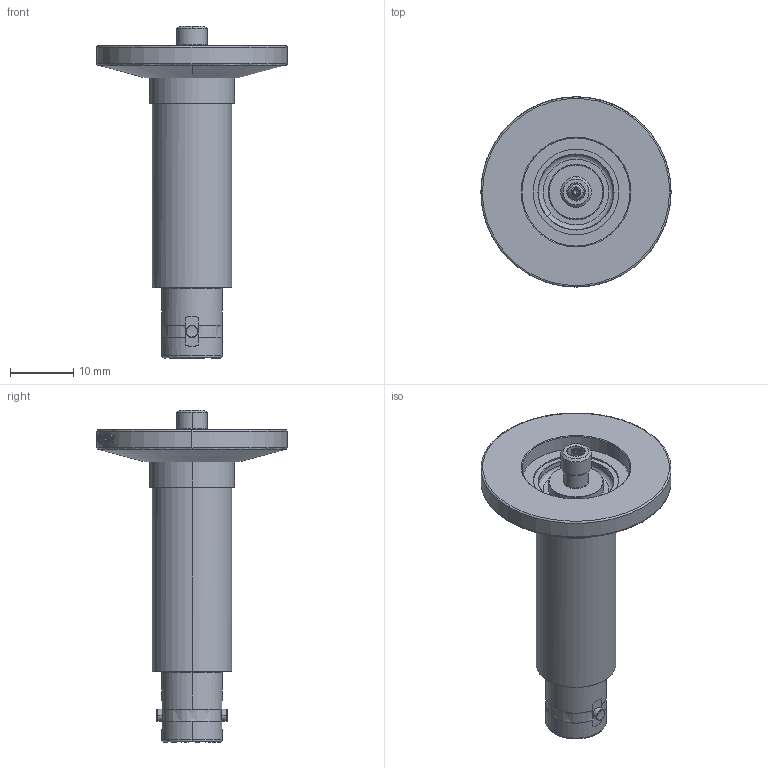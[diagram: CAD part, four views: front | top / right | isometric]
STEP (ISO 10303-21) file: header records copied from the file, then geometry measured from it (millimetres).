
FILE_DESCRIPTION (( 'STEP AP203' ), '1' );
FILE_NAME ('113135.stp', '2018-04-17T22:14:42', ( '' ), ( '' ), 'SwSTEP 2.0', 'SolidWorks 2012', '' );
FILE_SCHEMA (( 'CONFIG_CONTROL_DESIGN' ));
Length unit declared in the file: centimetre
Products named in the file (1): 113135
Bounding box: 29.97 x 29.97 x 52.32 mm (x, y, z)
Volume: 5408 mm3; surface area: 5850.7 mm2
Topology: 1 solids, 1 shells, 508 faces, 1322 edges, 859 vertices
Faces by surface type: bspline 182, plane 168, cylinder 102, cone 56
Entity records: 41837 total; most frequent: CARTESIAN_POINT 30621, ORIENTED_EDGE 2636, DIRECTION 1818, EDGE_CURVE 1318, VERTEX_POINT 859, AXIS2_PLACEMENT_3D 675, EDGE_LOOP 555, FACE_OUTER_BOUND 508
